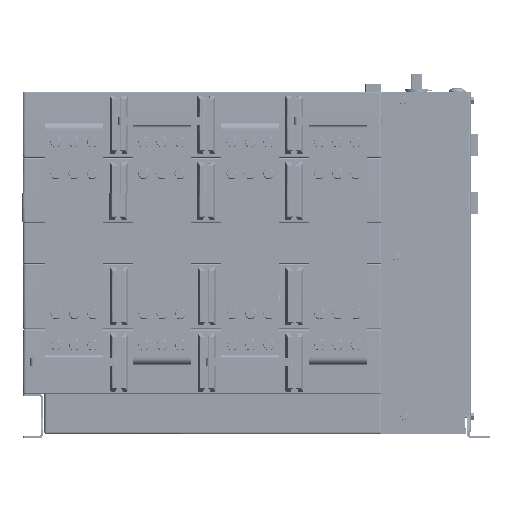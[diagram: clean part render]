
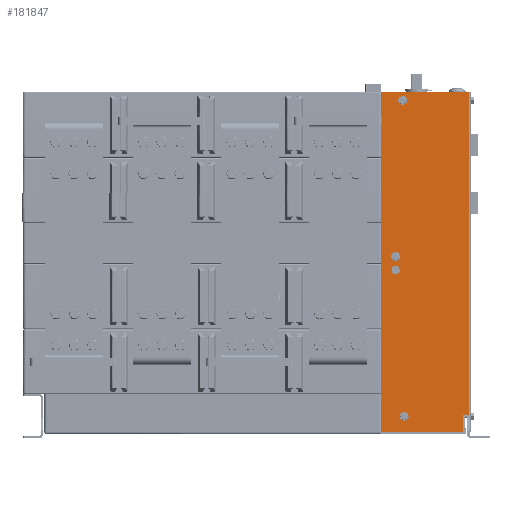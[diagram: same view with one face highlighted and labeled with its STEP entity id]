
A CAD part, left-side view. The second image highlights one B-rep face of the part: STEP entity #181847.
In plain terms, the highlighted planar face has unit normal (-1, 0, 0) as drawn and (1, 0, 0) by its records, which use the part's own axes.
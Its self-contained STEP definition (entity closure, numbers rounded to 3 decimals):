
#180475=DIRECTION('',(0.,0.,-1.));
#180476=VECTOR('',#180475,441.159);
#180477=CARTESIAN_POINT('',(101.,2.,296.659));
#180478=LINE('',#180477,#180476);
#180484=DIRECTION('',(0.,1.,0.));
#180485=VECTOR('',#180484,120.);
#180486=CARTESIAN_POINT('',(101.,2.,-144.5));
#180487=LINE('',#180486,#180485);
#180492=DIRECTION('',(0.,1.,0.));
#180493=VECTOR('',#180492,8.);
#180494=CARTESIAN_POINT('',(101.,2.,296.659));
#180495=LINE('',#180494,#180493);
#180496=DIRECTION('',(0.,1.,0.));
#180497=VECTOR('',#180496,112.);
#180498=CARTESIAN_POINT('',(101.,10.,320.659));
#180499=LINE('',#180498,#180497);
#180500=DIRECTION('',(0.,0.,-1.));
#180501=VECTOR('',#180500,465.159);
#180502=CARTESIAN_POINT('',(101.,122.,320.659));
#180503=LINE('',#180502,#180501);
#180504=CARTESIAN_POINT('',(101.,93.,-133.5));
#180505=DIRECTION('',(1.,0.,0.));
#180506=DIRECTION('',(0.,0.,-1.));
#180507=AXIS2_PLACEMENT_3D('',#180504,#180505,#180506);
#180509=CARTESIAN_POINT('',(101.,93.,-133.5));
#180510=DIRECTION('',(1.,0.,0.));
#180511=DIRECTION('',(0.,0.,1.));
#180512=AXIS2_PLACEMENT_3D('',#180509,#180510,#180511);
#180514=CARTESIAN_POINT('',(101.,102.642,80.068));
#180515=DIRECTION('',(1.,0.,0.));
#180516=DIRECTION('',(0.,0.,-1.));
#180517=AXIS2_PLACEMENT_3D('',#180514,#180515,#180516);
#180519=CARTESIAN_POINT('',(101.,102.642,80.068));
#180520=DIRECTION('',(1.,0.,0.));
#180521=DIRECTION('',(0.,0.,1.));
#180522=AXIS2_PLACEMENT_3D('',#180519,#180520,#180521);
#180524=CARTESIAN_POINT('',(101.,102.642,98.56));
#180525=DIRECTION('',(1.,0.,0.));
#180526=DIRECTION('',(0.,-1.,0.));
#180527=AXIS2_PLACEMENT_3D('',#180524,#180525,#180526);
#180529=CARTESIAN_POINT('',(101.,102.642,98.56));
#180530=DIRECTION('',(1.,0.,0.));
#180531=DIRECTION('',(0.,1.,0.));
#180532=AXIS2_PLACEMENT_3D('',#180529,#180530,#180531);
#180534=CARTESIAN_POINT('',(101.,91.,298.659));
#180535=DIRECTION('',(1.,0.,0.));
#180536=DIRECTION('',(0.,1.,0.));
#180537=AXIS2_PLACEMENT_3D('',#180534,#180535,#180536);
#180539=CARTESIAN_POINT('',(101.,91.,298.659));
#180540=DIRECTION('',(1.,0.,0.));
#180541=DIRECTION('',(0.,-1.,0.));
#180542=AXIS2_PLACEMENT_3D('',#180539,#180540,#180541);
#180783=DIRECTION('',(0.,0.,-1.));
#180784=VECTOR('',#180783,24.);
#180785=CARTESIAN_POINT('',(101.,10.,320.659));
#180786=LINE('',#180785,#180784);
#181397=CARTESIAN_POINT('',(101.,2.,-144.5));
#181398=VERTEX_POINT('',#181397);
#181401=CARTESIAN_POINT('',(101.,2.,296.659));
#181402=VERTEX_POINT('',#181401);
#181403=CARTESIAN_POINT('',(101.,122.,-144.5));
#181404=VERTEX_POINT('',#181403);
#181411=CARTESIAN_POINT('',(101.,10.,296.659));
#181412=VERTEX_POINT('',#181411);
#181413=CARTESIAN_POINT('',(101.,10.,320.659));
#181414=VERTEX_POINT('',#181413);
#181415=CARTESIAN_POINT('',(101.,122.,320.659));
#181416=VERTEX_POINT('',#181415);
#181417=CARTESIAN_POINT('',(101.,93.,-137.));
#181418=CARTESIAN_POINT('',(101.,93.,-130.));
#181419=VERTEX_POINT('',#181417);
#181420=VERTEX_POINT('',#181418);
#181421=CARTESIAN_POINT('',(101.,102.642,76.568));
#181422=CARTESIAN_POINT('',(101.,102.642,83.568));
#181423=VERTEX_POINT('',#181421);
#181424=VERTEX_POINT('',#181422);
#181425=CARTESIAN_POINT('',(101.,96.952,98.56));
#181426=CARTESIAN_POINT('',(101.,108.332,98.56));
#181427=VERTEX_POINT('',#181425);
#181428=VERTEX_POINT('',#181426);
#181429=CARTESIAN_POINT('',(101.,94.5,298.659));
#181430=CARTESIAN_POINT('',(101.,87.5,298.659));
#181431=VERTEX_POINT('',#181429);
#181432=VERTEX_POINT('',#181430);
#181806=CARTESIAN_POINT('',(101.,0.,144.5));
#181807=DIRECTION('',(1.,0.,0.));
#181808=DIRECTION('',(0.,0.,-1.));
#181809=AXIS2_PLACEMENT_3D('',#181806,#181807,#181808);
#181810=PLANE('',#181809);
#181811=ORIENTED_EDGE('',*,*,#181781,.F.);
#181813=ORIENTED_EDGE('',*,*,#181812,.T.);
#181815=ORIENTED_EDGE('',*,*,#181814,.F.);
#181817=ORIENTED_EDGE('',*,*,#181816,.T.);
#181819=ORIENTED_EDGE('',*,*,#181818,.T.);
#181820=ORIENTED_EDGE('',*,*,#181792,.F.);
#181821=EDGE_LOOP('',(#181811,#181813,#181815,#181817,#181819,#181820));
#181822=FACE_OUTER_BOUND('',#181821,.F.);
#181824=ORIENTED_EDGE('',*,*,#181823,.T.);
#181826=ORIENTED_EDGE('',*,*,#181825,.T.);
#181827=EDGE_LOOP('',(#181824,#181826));
#181828=FACE_BOUND('',#181827,.F.);
#181830=ORIENTED_EDGE('',*,*,#181829,.T.);
#181832=ORIENTED_EDGE('',*,*,#181831,.T.);
#181833=EDGE_LOOP('',(#181830,#181832));
#181834=FACE_BOUND('',#181833,.F.);
#181836=ORIENTED_EDGE('',*,*,#181835,.T.);
#181838=ORIENTED_EDGE('',*,*,#181837,.T.);
#181839=EDGE_LOOP('',(#181836,#181838));
#181840=FACE_BOUND('',#181839,.F.);
#181842=ORIENTED_EDGE('',*,*,#181841,.T.);
#181844=ORIENTED_EDGE('',*,*,#181843,.T.);
#181845=EDGE_LOOP('',(#181842,#181844));
#181846=FACE_BOUND('',#181845,.F.);
#180508=CIRCLE('',#180507,3.5);
#180513=CIRCLE('',#180512,3.5);
#180518=CIRCLE('',#180517,3.5);
#180523=CIRCLE('',#180522,3.5);
#180528=CIRCLE('',#180527,5.69);
#180533=CIRCLE('',#180532,5.69);
#180538=CIRCLE('',#180537,3.5);
#180543=CIRCLE('',#180542,3.5);
#181781=EDGE_CURVE('',#181402,#181398,#180478,.T.);
#181792=EDGE_CURVE('',#181398,#181404,#180487,.T.);
#181812=EDGE_CURVE('',#181402,#181412,#180495,.T.);
#181814=EDGE_CURVE('',#181414,#181412,#180786,.T.);
#181816=EDGE_CURVE('',#181414,#181416,#180499,.T.);
#181818=EDGE_CURVE('',#181416,#181404,#180503,.T.);
#181823=EDGE_CURVE('',#181419,#181420,#180508,.T.);
#181825=EDGE_CURVE('',#181420,#181419,#180513,.T.);
#181829=EDGE_CURVE('',#181423,#181424,#180518,.T.);
#181831=EDGE_CURVE('',#181424,#181423,#180523,.T.);
#181835=EDGE_CURVE('',#181427,#181428,#180528,.T.);
#181837=EDGE_CURVE('',#181428,#181427,#180533,.T.);
#181841=EDGE_CURVE('',#181431,#181432,#180538,.T.);
#181843=EDGE_CURVE('',#181432,#181431,#180543,.T.);
#181847=ADVANCED_FACE('',(#181822,#181828,#181834,#181840,#181846),#181810,.T.);
